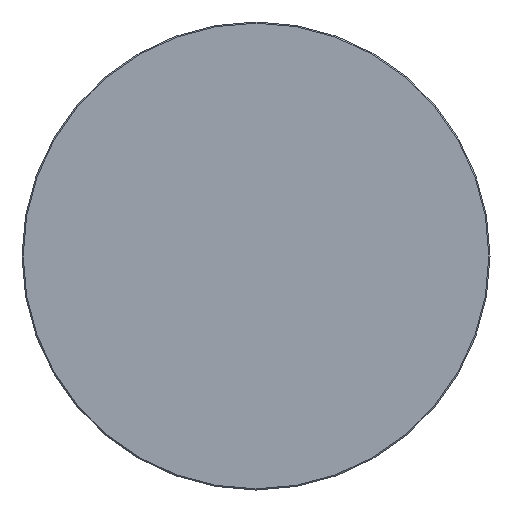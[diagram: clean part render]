
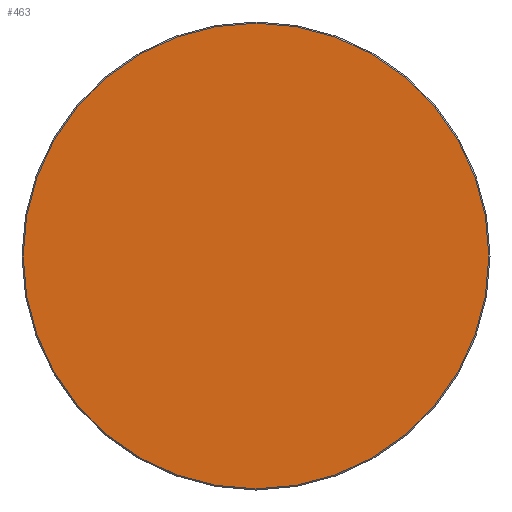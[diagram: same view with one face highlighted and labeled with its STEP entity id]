
A CAD part, left-side view. The second image highlights one B-rep face of the part: STEP entity #463.
In plain terms, the highlighted planar face has unit normal (-1, 0, 0).
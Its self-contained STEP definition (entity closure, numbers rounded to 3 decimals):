
#71 = DIRECTION ( 'NONE',  ( 0., 0., -1. ) ) ;
#137 = CARTESIAN_POINT ( 'NONE',  ( 0., 0., 0. ) ) ;
#147 = CIRCLE ( 'NONE', #462, 59.7 ) ;
#178 = EDGE_LOOP ( 'NONE', ( #421, #431 ) ) ;
#284 = DIRECTION ( 'NONE',  ( -1., 0., 0. ) ) ;
#355 = DIRECTION ( 'NONE',  ( -1., 0., 0. ) ) ;
#421 = ORIENTED_EDGE ( 'NONE', *, *, #930, .T. ) ;
#423 = CIRCLE ( 'NONE', #921, 59.7 ) ;
#431 = ORIENTED_EDGE ( 'NONE', *, *, #491, .T. ) ;
#449 = VERTEX_POINT ( 'NONE', #581 ) ;
#461 = AXIS2_PLACEMENT_3D ( 'NONE', #945, #793, #71 ) ;
#462 = AXIS2_PLACEMENT_3D ( 'NONE', #943, #355, #727 ) ;
#463 = ADVANCED_FACE ( 'NONE', ( #603 ), #508, .F. ) ;
#491 = EDGE_CURVE ( 'NONE', #743, #449, #423, .T. ) ;
#508 = PLANE ( 'NONE',  #461 ) ;
#578 = DIRECTION ( 'NONE',  ( 0., 0., 1. ) ) ;
#581 = CARTESIAN_POINT ( 'NONE',  ( 0., 0., -59.7 ) ) ;
#603 = FACE_OUTER_BOUND ( 'NONE', #178, .T. ) ;
#609 = CARTESIAN_POINT ( 'NONE',  ( 0., 0., 59.7 ) ) ;
#727 = DIRECTION ( 'NONE',  ( 0., 0., 1. ) ) ;
#743 = VERTEX_POINT ( 'NONE', #609 ) ;
#793 = DIRECTION ( 'NONE',  ( 1., 0., 0. ) ) ;
#921 = AXIS2_PLACEMENT_3D ( 'NONE', #137, #284, #578 ) ;
#930 = EDGE_CURVE ( 'NONE', #449, #743, #147, .T. ) ;
#943 = CARTESIAN_POINT ( 'NONE',  ( 0., 0., 0. ) ) ;
#945 = CARTESIAN_POINT ( 'NONE',  ( 0., 0., 0. ) ) ;
